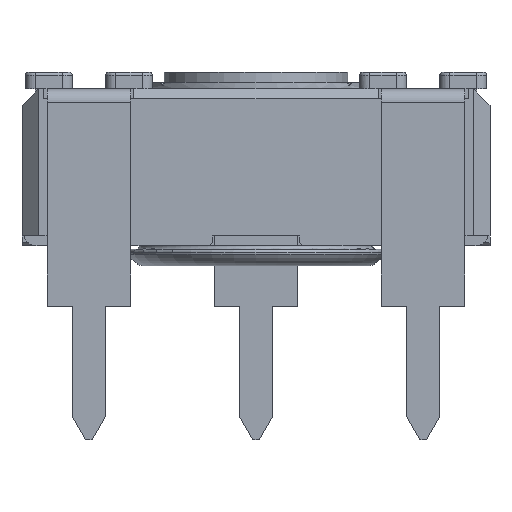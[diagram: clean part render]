
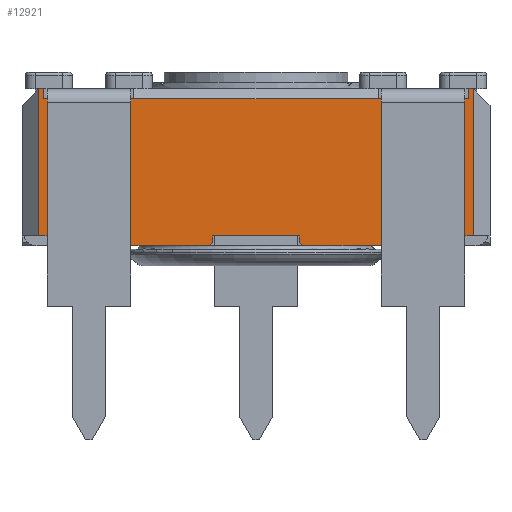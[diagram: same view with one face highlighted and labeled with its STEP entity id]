
A CAD part, front view. The second image highlights one B-rep face of the part: STEP entity #12921.
In plain terms, the highlighted planar face has unit normal (0, -1, 0).
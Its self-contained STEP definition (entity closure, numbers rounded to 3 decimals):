
#975=FACE_OUTER_BOUND('',#1651,.T.);
#1651=EDGE_LOOP('',(#10107,#10108,#10109,#10110,#10111,#10112,#10113,#10114,
#10115,#10116,#10117,#10118,#10119,#10120,#10121,#10122,#10123,#10124,#10125,
#10126,#10127,#10128,#10129,#10130,#10131));
#2143=LINE('',#18210,#3632);
#2151=LINE('',#18230,#3640);
#2175=LINE('',#18277,#3664);
#2176=LINE('',#18279,#3665);
#2181=LINE('',#18290,#3670);
#2205=LINE('',#18337,#3694);
#2393=LINE('',#18892,#3882);
#2406=LINE('',#18916,#3895);
#2556=LINE('',#19471,#4045);
#2761=LINE('',#19994,#4250);
#2766=LINE('',#20004,#4255);
#2771=LINE('',#20014,#4260);
#2786=LINE('',#20040,#4275);
#2894=LINE('',#20358,#4383);
#2902=LINE('',#20376,#4391);
#2908=LINE('',#20384,#4397);
#2909=LINE('',#20387,#4398);
#2910=LINE('',#20389,#4399);
#2911=LINE('',#20391,#4400);
#2912=LINE('',#20392,#4401);
#2913=LINE('',#20393,#4402);
#2914=LINE('',#20394,#4403);
#2915=LINE('',#20395,#4404);
#2916=LINE('',#20396,#4405);
#2917=LINE('',#20397,#4406);
#3632=VECTOR('',#14579,10.);
#3640=VECTOR('',#14601,10.);
#3664=VECTOR('',#14627,10.);
#3665=VECTOR('',#14630,10.);
#3670=VECTOR('',#14645,10.);
#3694=VECTOR('',#14671,10.);
#3882=VECTOR('',#15233,10.);
#3895=VECTOR('',#15260,10.);
#4045=VECTOR('',#15638,10.);
#4250=VECTOR('',#15985,10.);
#4255=VECTOR('',#15990,10.);
#4260=VECTOR('',#15995,10.);
#4275=VECTOR('',#16012,10.);
#4383=VECTOR('',#16268,10.);
#4391=VECTOR('',#16280,10.);
#4397=VECTOR('',#16290,10.);
#4398=VECTOR('',#16293,10.);
#4399=VECTOR('',#16294,10.);
#4400=VECTOR('',#16295,10.);
#4401=VECTOR('',#16296,10.);
#4402=VECTOR('',#16297,10.);
#4403=VECTOR('',#16298,10.);
#4404=VECTOR('',#16299,10.);
#4405=VECTOR('',#16300,10.);
#4406=VECTOR('',#16301,10.);
#5041=VERTEX_POINT('',#18063);
#5047=VERTEX_POINT('',#18080);
#5057=VERTEX_POINT('',#18102);
#5105=VERTEX_POINT('',#18209);
#5110=VERTEX_POINT('',#18229);
#5132=VERTEX_POINT('',#18275);
#5133=VERTEX_POINT('',#18289);
#5155=VERTEX_POINT('',#18335);
#5334=VERTEX_POINT('',#18889);
#5335=VERTEX_POINT('',#18891);
#5338=VERTEX_POINT('',#18913);
#5339=VERTEX_POINT('',#18915);
#5473=VERTEX_POINT('',#19467);
#5625=VERTEX_POINT('',#19993);
#5629=VERTEX_POINT('',#20001);
#5630=VERTEX_POINT('',#20003);
#5634=VERTEX_POINT('',#20011);
#5635=VERTEX_POINT('',#20013);
#5712=VERTEX_POINT('',#20356);
#5713=VERTEX_POINT('',#20357);
#5720=VERTEX_POINT('',#20374);
#5721=VERTEX_POINT('',#20375);
#5722=VERTEX_POINT('',#20386);
#5723=VERTEX_POINT('',#20388);
#5724=VERTEX_POINT('',#20390);
#6364=EDGE_CURVE('',#5105,#5041,#2143,.T.);
#6374=EDGE_CURVE('',#5110,#5105,#2151,.T.);
#6398=EDGE_CURVE('',#5041,#5132,#2175,.T.);
#6399=EDGE_CURVE('',#5047,#5057,#2176,.T.);
#6404=EDGE_CURVE('',#5133,#5047,#2181,.T.);
#6428=EDGE_CURVE('',#5057,#5155,#2205,.T.);
#6707=EDGE_CURVE('',#5335,#5334,#2393,.T.);
#6720=EDGE_CURVE('',#5339,#5338,#2406,.T.);
#6930=EDGE_CURVE('',#5339,#5473,#2556,.T.);
#7156=EDGE_CURVE('',#5625,#5473,#2761,.T.);
#7161=EDGE_CURVE('',#5630,#5629,#2766,.T.);
#7166=EDGE_CURVE('',#5635,#5634,#2771,.T.);
#7181=EDGE_CURVE('',#5635,#5334,#2786,.T.);
#7308=EDGE_CURVE('',#5712,#5713,#2894,.T.);
#7316=EDGE_CURVE('',#5720,#5721,#2902,.T.);
#7322=EDGE_CURVE('',#5630,#5712,#2908,.T.);
#7323=EDGE_CURVE('',#5629,#5722,#2909,.T.);
#7324=EDGE_CURVE('',#5723,#5722,#2910,.T.);
#7325=EDGE_CURVE('',#5723,#5724,#2911,.T.);
#7326=EDGE_CURVE('',#5724,#5625,#2912,.T.);
#7327=EDGE_CURVE('',#5338,#5133,#2913,.T.);
#7328=EDGE_CURVE('',#5110,#5155,#2914,.T.);
#7329=EDGE_CURVE('',#5132,#5335,#2915,.T.);
#7330=EDGE_CURVE('',#5634,#5721,#2916,.T.);
#7331=EDGE_CURVE('',#5720,#5713,#2917,.T.);
#10107=ORIENTED_EDGE('',*,*,#7308,.F.);
#10108=ORIENTED_EDGE('',*,*,#7322,.F.);
#10109=ORIENTED_EDGE('',*,*,#7161,.T.);
#10110=ORIENTED_EDGE('',*,*,#7323,.T.);
#10111=ORIENTED_EDGE('',*,*,#7324,.F.);
#10112=ORIENTED_EDGE('',*,*,#7325,.T.);
#10113=ORIENTED_EDGE('',*,*,#7326,.T.);
#10114=ORIENTED_EDGE('',*,*,#7156,.T.);
#10115=ORIENTED_EDGE('',*,*,#6930,.F.);
#10116=ORIENTED_EDGE('',*,*,#6720,.T.);
#10117=ORIENTED_EDGE('',*,*,#7327,.T.);
#10118=ORIENTED_EDGE('',*,*,#6404,.T.);
#10119=ORIENTED_EDGE('',*,*,#6399,.T.);
#10120=ORIENTED_EDGE('',*,*,#6428,.T.);
#10121=ORIENTED_EDGE('',*,*,#7328,.F.);
#10122=ORIENTED_EDGE('',*,*,#6374,.T.);
#10123=ORIENTED_EDGE('',*,*,#6364,.T.);
#10124=ORIENTED_EDGE('',*,*,#6398,.T.);
#10125=ORIENTED_EDGE('',*,*,#7329,.T.);
#10126=ORIENTED_EDGE('',*,*,#6707,.T.);
#10127=ORIENTED_EDGE('',*,*,#7181,.F.);
#10128=ORIENTED_EDGE('',*,*,#7166,.T.);
#10129=ORIENTED_EDGE('',*,*,#7330,.T.);
#10130=ORIENTED_EDGE('',*,*,#7316,.F.);
#10131=ORIENTED_EDGE('',*,*,#7331,.T.);
#12111=PLANE('',#13784);
#12921=ADVANCED_FACE('',(#975),#12111,.T.);
#13784=AXIS2_PLACEMENT_3D('',#20385,#16291,#16292);
#14579=DIRECTION('',(-1.,0.,0.));
#14601=DIRECTION('',(-1.,0.,0.));
#14627=DIRECTION('',(-1.,0.,0.));
#14630=DIRECTION('',(-1.,0.,0.));
#14645=DIRECTION('',(-1.,0.,0.));
#14671=DIRECTION('',(-1.,0.,0.));
#15233=DIRECTION('',(-1.,0.,0.));
#15260=DIRECTION('',(-1.,0.,0.));
#15638=DIRECTION('',(0.,0.,-1.));
#15985=DIRECTION('',(1.,0.,0.));
#15990=DIRECTION('',(1.,0.,0.));
#15995=DIRECTION('',(1.,0.,0.));
#16012=DIRECTION('',(0.,0.,1.));
#16268=DIRECTION('',(-0.707,0.,-0.707));
#16280=DIRECTION('',(-0.707,0.,0.707));
#16290=DIRECTION('',(0.,0.,-1.));
#16291=DIRECTION('center_axis',(0.,-1.,0.));
#16292=DIRECTION('ref_axis',(0.,0.,-1.));
#16293=DIRECTION('',(0.,0.,-1.));
#16294=DIRECTION('',(-0.707,0.,0.707));
#16295=DIRECTION('',(1.,0.,0.));
#16296=DIRECTION('',(0.,0.,1.));
#16297=DIRECTION('',(0.,0.,-1.));
#16298=DIRECTION('',(1.,0.,0.));
#16299=DIRECTION('',(0.,0.,1.));
#16300=DIRECTION('',(0.,0.,-1.));
#16301=DIRECTION('',(1.,0.,0.));
#18063=CARTESIAN_POINT('',(-13.717,-9.898,4.1));
#18080=CARTESIAN_POINT('',(-1.217,-9.898,4.1));
#18102=CARTESIAN_POINT('',(-3.717,-9.898,4.1));
#18209=CARTESIAN_POINT('',(-11.217,-9.898,4.1));
#18210=CARTESIAN_POINT('',(-3.944,-9.898,4.1));
#18229=CARTESIAN_POINT('',(-11.117,-9.898,4.1));
#18230=CARTESIAN_POINT('',(-3.944,-9.898,4.1));
#18275=CARTESIAN_POINT('',(-13.817,-9.898,4.1));
#18277=CARTESIAN_POINT('',(-3.944,-9.898,4.1));
#18279=CARTESIAN_POINT('',(-1.862,-9.898,4.1));
#18289=CARTESIAN_POINT('',(-1.117,-9.898,4.1));
#18290=CARTESIAN_POINT('',(-1.862,-9.898,4.1));
#18335=CARTESIAN_POINT('',(-3.817,-9.898,4.1));
#18337=CARTESIAN_POINT('',(-1.862,-9.898,4.1));
#18889=CARTESIAN_POINT('',(-13.967,-9.898,4.4));
#18891=CARTESIAN_POINT('',(-13.817,-9.898,4.4));
#18892=CARTESIAN_POINT('',(-14.467,-9.898,4.4));
#18913=CARTESIAN_POINT('',(-1.117,-9.898,4.4));
#18915=CARTESIAN_POINT('',(-0.967,-9.898,4.4));
#18916=CARTESIAN_POINT('',(-14.467,-9.898,4.4));
#19467=CARTESIAN_POINT('',(-0.967,-9.898,0.));
#19471=CARTESIAN_POINT('',(-0.967,-9.898,0.));
#19993=CARTESIAN_POINT('',(-1.467,-9.898,0.));
#19994=CARTESIAN_POINT('',(-0.646,-9.898,0.));
#20001=CARTESIAN_POINT('',(-6.167,-9.898,0.));
#20003=CARTESIAN_POINT('',(-8.767,-9.898,0.));
#20004=CARTESIAN_POINT('',(-14.467,-9.898,0.));
#20011=CARTESIAN_POINT('',(-13.467,-9.898,0.));
#20013=CARTESIAN_POINT('',(-13.967,-9.898,0.));
#20014=CARTESIAN_POINT('',(-7.245,-9.898,0.));
#20040=CARTESIAN_POINT('',(-13.967,-9.898,0.));
#20356=CARTESIAN_POINT('',(-8.767,-9.898,-0.2));
#20357=CARTESIAN_POINT('',(-8.867,-9.898,-0.3));
#20358=CARTESIAN_POINT('',(-6.667,-9.898,1.9));
#20374=CARTESIAN_POINT('',(-13.367,-9.898,-0.3));
#20375=CARTESIAN_POINT('',(-13.467,-9.898,-0.2));
#20376=CARTESIAN_POINT('',(-10.242,-9.898,-3.425));
#20384=CARTESIAN_POINT('',(-8.767,-9.898,0.));
#20385=CARTESIAN_POINT('Origin',(-0.467,-9.898,0.));
#20386=CARTESIAN_POINT('',(-6.167,-9.898,-0.2));
#20387=CARTESIAN_POINT('',(-6.167,-9.898,0.));
#20388=CARTESIAN_POINT('',(-6.067,-9.898,-0.3));
#20389=CARTESIAN_POINT('',(-4.767,-9.898,-1.6));
#20390=CARTESIAN_POINT('',(-1.467,-9.898,-0.3));
#20391=CARTESIAN_POINT('',(-0.467,-9.898,-0.3));
#20392=CARTESIAN_POINT('',(-1.467,-9.898,-0.15));
#20393=CARTESIAN_POINT('',(-1.117,-9.898,2.2));
#20394=CARTESIAN_POINT('',(-3.967,-9.898,4.1));
#20395=CARTESIAN_POINT('',(-13.817,-9.898,2.2));
#20396=CARTESIAN_POINT('',(-13.467,-9.898,-0.15));
#20397=CARTESIAN_POINT('',(-0.467,-9.898,-0.3));
